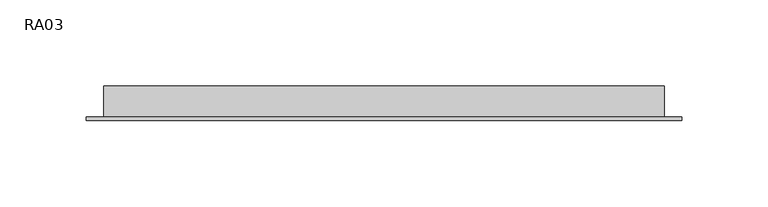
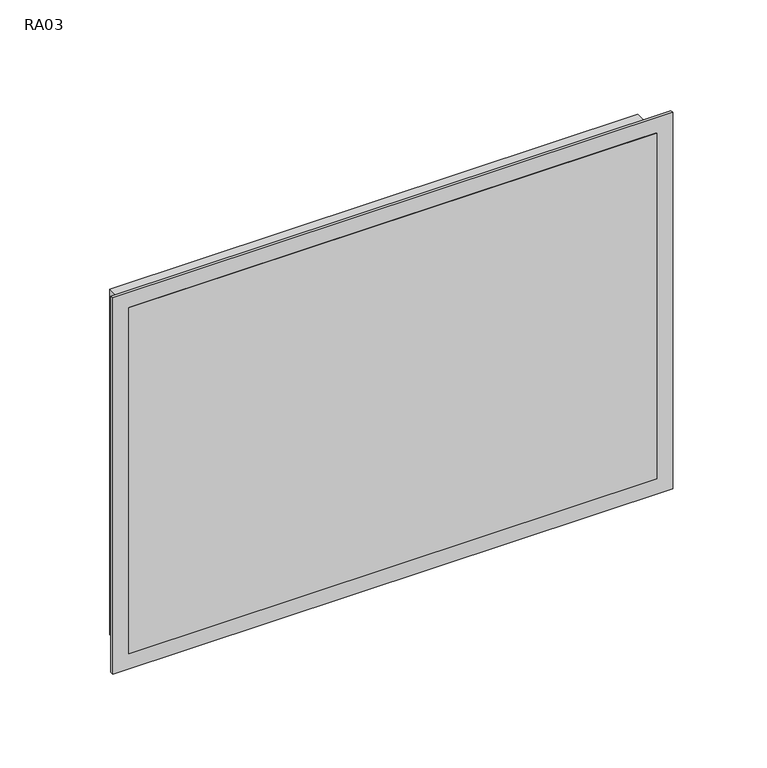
"""IFC4 building model written with IfcOpenShell, lengths in millimetres: air terminal geometry, ZYR_03.06.04.01 Reixa Paret Sobrepressio : RA03."""

from ifc_helpers import new_model, si_unit, frame, origin, place, context, project, spatial, polyline, outline, extrude, source, transform, mapped, element, save


def ra03_ededf39f(model_context):
    return source(origin(), model_context, "Body", "SweptSolid", [
        extrude(outline(polyline([(162.5, 0.0), (-162.5, 0.0), (-162.5, 20.0), (162.5, 20.0), (162.5, 0.0)])), frame((0.0, 0.0, -112.5), z_axis=(0.0, 0.0, 1.0), x_axis=(1.0, 0.0, 0.0)), (0.0, 0.0, 1.0), 225.0),
        extrude(outline(polyline([(122.5, 172.5), (122.5, -172.5), (-122.5, -172.5), (-122.5, 172.5), (122.5, 172.5)]), holes=[polyline([(112.5, 162.5), (-112.5, 162.5), (-112.5, -162.5), (112.5, -162.5), (112.5, 162.5)])]), frame((0.0, 0.0, 0.0), z_axis=(0.0, 1.0, 0.0), x_axis=(0.0, 0.0, 1.0)), (0.0, 0.0, 1.0), 2.0),
    ])


if __name__ == "__main__":
    model = new_model("IFC4")
    model_context = context("Model", 3, world=origin())
    ifc_project = project(units=[si_unit("LENGTHUNIT", "METRE", prefix="MILLI")], contexts=[model_context])
    site = spatial("IfcSite", under=ifc_project)
    building = spatial("IfcBuilding", under=site)
    placement = place(None, origin())
    ra03_shape = ra03_ededf39f(model_context)
    element("IfcAirTerminal", 1, ObjectType="ZYR_03.06.04.01 Reixa Paret Sobrepressio : RA03", at=placement, inside=building, context=model_context, shape_type="MappedRepresentation", body=[
        mapped(ra03_shape, transform((0.0, 0.0, 0.0), x_axis=(1.0, 0.0, 0.0), y_axis=(0.0, 1.0, 0.0), z_axis=(0.0, 0.0, 1.0))),
    ])
    save(model, "model.ifc")
